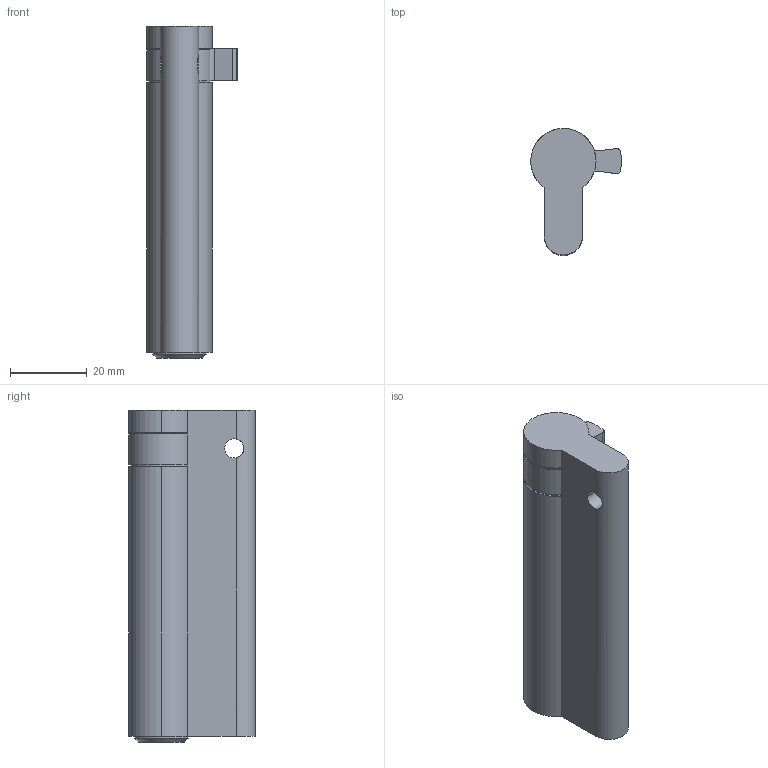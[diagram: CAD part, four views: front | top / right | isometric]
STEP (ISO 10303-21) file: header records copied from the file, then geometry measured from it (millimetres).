
FILE_DESCRIPTION (( 'STEP AP214' ), '1' );
FILE_NAME ('TPL-H-EU-515-L 29Oct2024.STEP', '2024-10-29T22:21:02', ( '' ), ( '' ), 'SwSTEP 2.0', 'SolidWorks 2023', '' );
FILE_SCHEMA (( 'AUTOMOTIVE_DESIGN' ));
Length unit declared in the file: millimetre
Products named in the file (1): TPL-H-EU-515-L 29Oct2024
Bounding box: 23.58 x 33 x 86.5 mm (x, y, z)
Volume: 32430.6 mm3; surface area: 8741.5 mm2
Topology: 1 solids, 1 shells, 45 faces, 124 edges, 78 vertices
Faces by surface type: cylinder 26, plane 16, cone 3
Entity records: 1540 total; most frequent: CARTESIAN_POINT 318, DIRECTION 271, ORIENTED_EDGE 248, EDGE_CURVE 124, AXIS2_PLACEMENT_3D 107, VERTEX_POINT 78, CIRCLE 61, VECTOR 57
